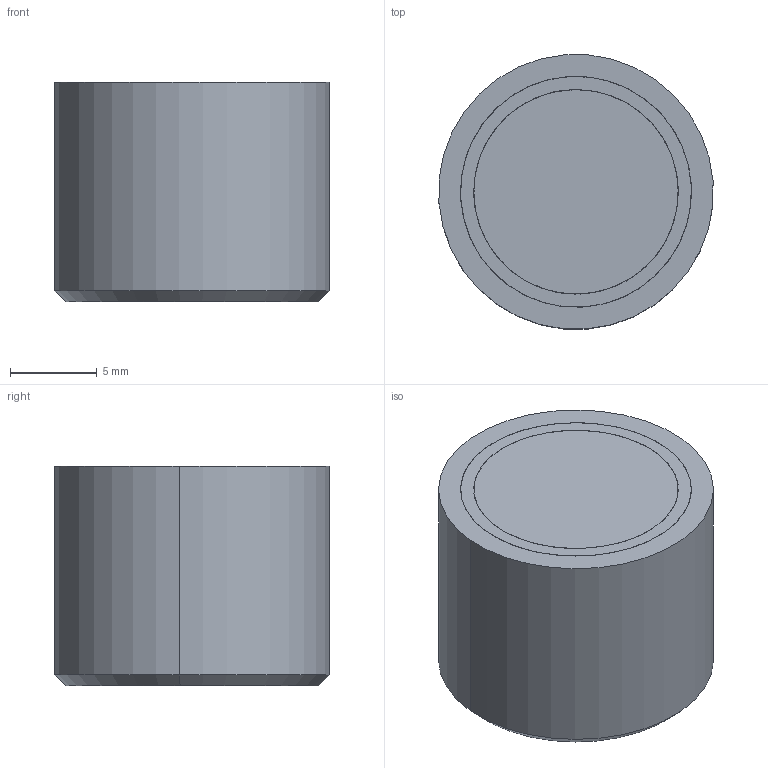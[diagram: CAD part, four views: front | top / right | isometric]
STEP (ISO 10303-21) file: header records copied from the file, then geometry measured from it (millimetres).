
FILE_DESCRIPTION (( 'STEP AP203' ), '1' );
FILE_NAME ('A625.STEP', '2018-08-17T18:56:06', ( '' ), ( '' ), 'SwSTEP 2.0', 'SolidWorks 2015', '' );
FILE_SCHEMA (( 'CONFIG_CONTROL_DESIGN' ));
Length unit declared in the file: inch
Products named in the file (1): A625
Bounding box: 15.82 x 15.82 x 12.7 mm (x, y, z)
Volume: 2447.9 mm3; surface area: 2921.6 mm2
Topology: 3 solids, 3 shells, 25 faces, 50 edges, 31 vertices
Faces by surface type: cylinder 14, plane 7, cone 4
Entity records: 731 total; most frequent: DIRECTION 130, CARTESIAN_POINT 105, ORIENTED_EDGE 96, AXIS2_PLACEMENT_3D 56, EDGE_CURVE 48, VERTEX_POINT 31, EDGE_LOOP 31, CIRCLE 30
